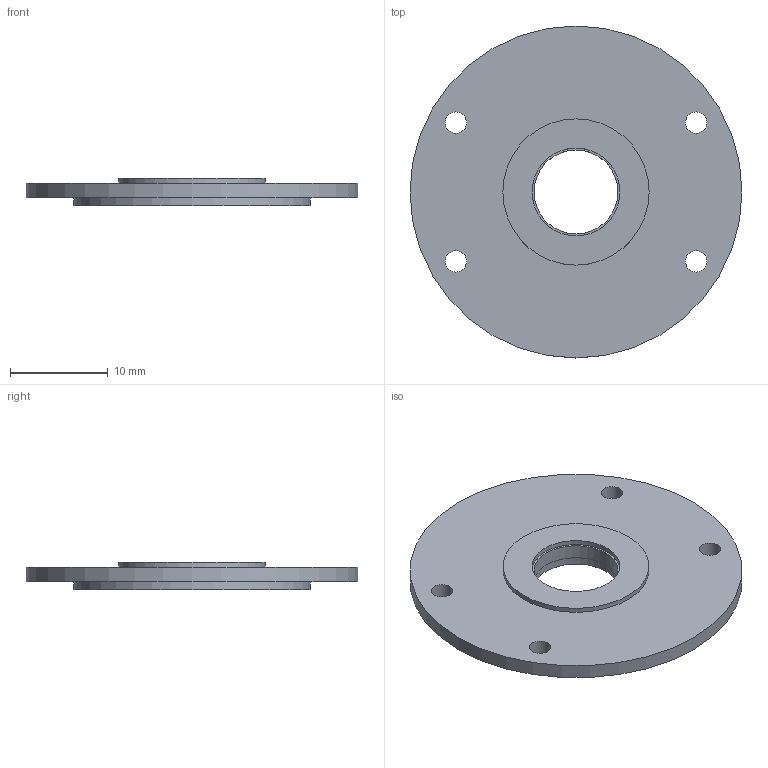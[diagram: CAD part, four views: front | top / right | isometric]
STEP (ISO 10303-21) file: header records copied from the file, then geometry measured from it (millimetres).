
FILE_DESCRIPTION(('Open CASCADE Model'),'2;1');
FILE_NAME('Open CASCADE Shape Model','2026-09-24T17:43:03',('Author'),( 'Open CASCADE'),'Open CASCADE STEP processor 7.8','Open CASCADE 7.8' ,'Unknown');
FILE_SCHEMA(('AUTOMOTIVE_DESIGN { 1 0 10303 214 1 1 1 1 }'));
Length unit declared in the file: millimetre
Products named in the file (1): Open CASCADE STEP translator 7.8 40
Bounding box: 34 x 34 x 2.8 mm (x, y, z)
Volume: 1629.8 mm3; surface area: 2031.6 mm2
Topology: 1 solids, 1 shells, 15 faces, 29 edges, 19 vertices
Faces by surface type: cylinder 10, plane 5
Full cylindrical faces by diameter (mm): 2.2 x4, 8.6 x2, 9 x1, 14.98 x1, 24.2 x1, 34 x1
Entity records: 800 total; most frequent: DIRECTION 137, CARTESIAN_POINT 123, ORIENTED_EDGE 58, PCURVE 58, DEFINITIONAL_REPRESENTATION 58, LINE 49, VECTOR 49, CIRCLE 37
